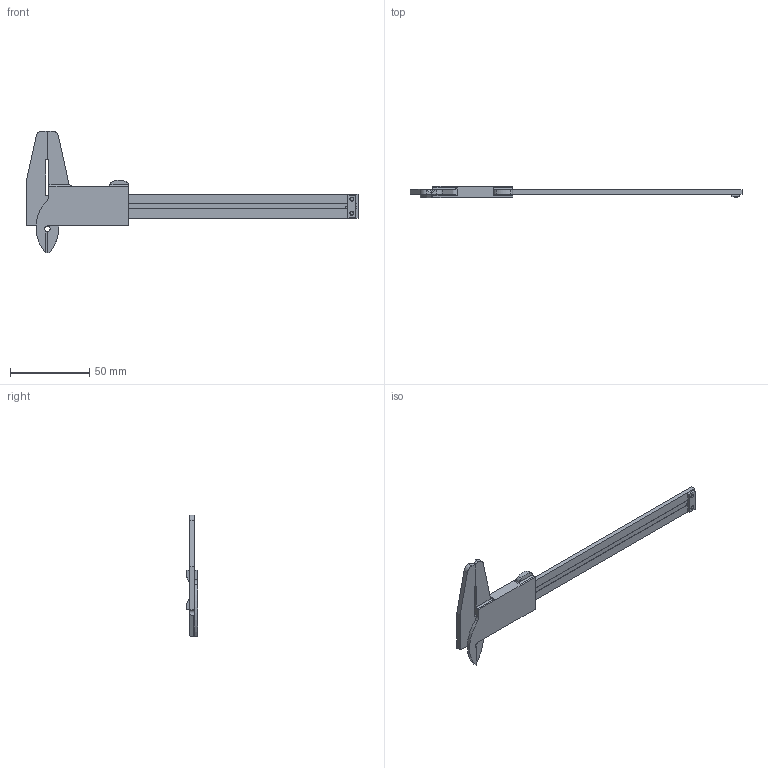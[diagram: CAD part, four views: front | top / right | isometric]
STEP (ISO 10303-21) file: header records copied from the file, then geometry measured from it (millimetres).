
FILE_DESCRIPTION(('STEP AP203'), '1');
FILE_NAME('栖闉罻.stp', '2011-02-09T10:22:10', ('UNSPECIFIED'), ('UNSPECIFIED'), 'ASCON STEP Converter 1.0', 'Kompas 3D', '');
FILE_SCHEMA(('CONFIG_CONTROL_DESIGN'));
Length unit declared in the file: millimetre
Products named in the file (3): 75; 76; 77
Assembly tree (2 placements, depth 2):
  75
    76
    77
Bounding box: 210 x 7 x 77 mm (x, y, z)
Volume: 17519.7 mm3; surface area: 16977.5 mm2
Topology: 2 solids, 2 shells, 1521 faces, 4037 edges, 2690 vertices
Faces by surface type: plane 1145, cylinder 372, cone 4
Entity records: 58628 total; most frequent: CARTESIAN_POINT 8481, ORIENTED_EDGE 8074, DIRECTION 7816, EDGE_CURVE 4037, LINE 3272, VECTOR 3272, VERTEX_POINT 2690, AXIS2_PLACEMENT_3D 2272
